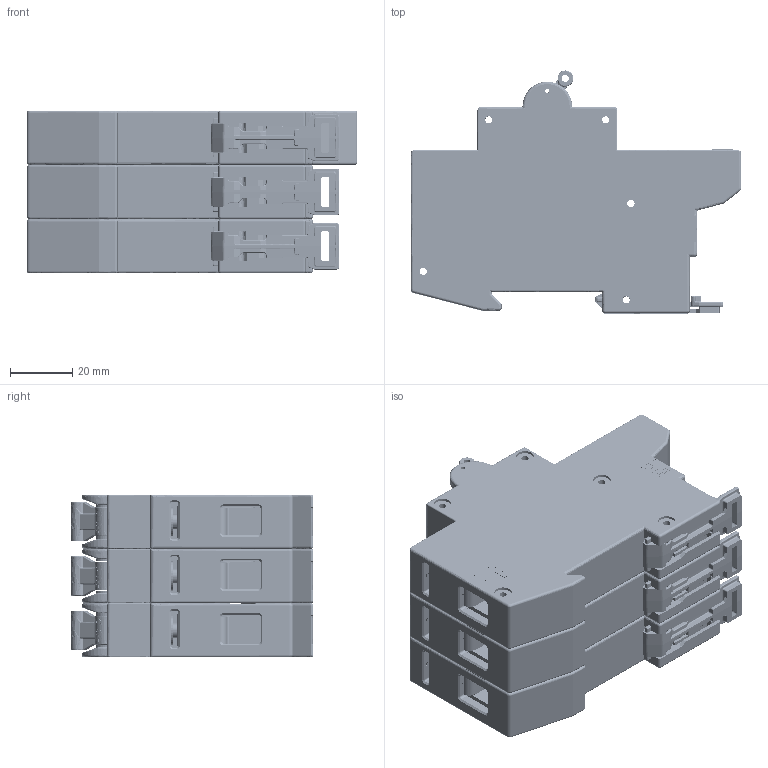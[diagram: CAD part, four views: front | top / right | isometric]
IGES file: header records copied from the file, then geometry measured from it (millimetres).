
Start section: PROPRIETARY NOTE: NOTICE TO ALL PERSONS RECEIVING THIS FILE. THIS FILE IS THE PROPERTY OF CARLINGSWITCH, INC. AND IS NOT TO BE DISCLOSED, REPRODUCED IN WHOLE OR IN PART OR USED FOR MANUFACTURING PURPOSES BY ANYONE WITHOUT THE CONSENT OF CARLING TECHNOLOGIES, INC.
Global section: file name: 2012-3p_wrp.igs; native system: Pro/ENGINEER by Parametric Technology Corporation; preprocessor: 2008010; author: jianzhuanlin; organization: Unknown; date: 20090206.161757; units: inch
Bounding box: 106.38 x 78.17 x 52.43 mm (x, y, z)
Surface area: 110167.3 mm2 (no closed solid volume)
Topology: 0 solids, 159 shells, 6173 faces, 20075 edges, 13881 vertices
Faces by surface type: bspline 3820, revolution 2344, extrusion 9
